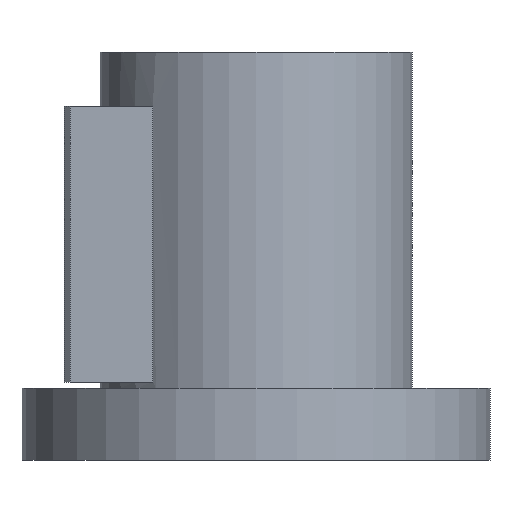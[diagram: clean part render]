
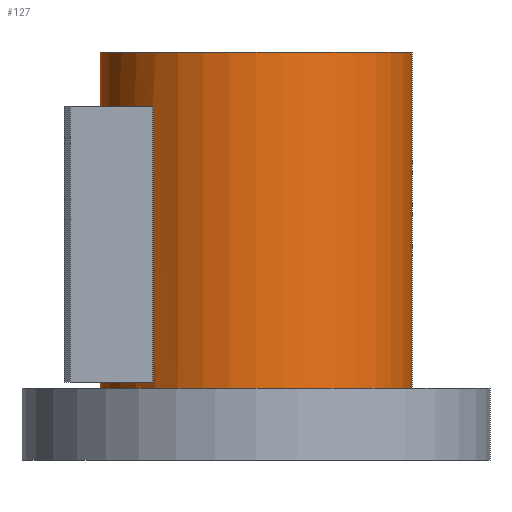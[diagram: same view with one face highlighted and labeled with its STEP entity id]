
A CAD part, front view. The second image highlights one B-rep face of the part: STEP entity #127.
In plain terms, the highlighted cylindrical face has radius 26 mm (diameter 52 mm), a full revolution.
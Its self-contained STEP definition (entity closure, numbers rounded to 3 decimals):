
#127=ADVANCED_FACE('',(#200,#201,#202),#155,.T.);
#155=CYLINDRICAL_SURFACE('',#508,26.);
#168=LINE('',#698,#184);
#169=LINE('',#702,#185);
#184=VECTOR('',#568,1.);
#185=VECTOR('',#571,1.);
#200=FACE_BOUND('',#245,.T.);
#201=FACE_BOUND('',#246,.T.);
#202=FACE_BOUND('',#247,.T.);
#245=EDGE_LOOP('',(#305));
#246=EDGE_LOOP('',(#306));
#247=EDGE_LOOP('',(#307,#308,#309,#310));
#305=ORIENTED_EDGE('',*,*,#431,.F.);
#306=ORIENTED_EDGE('',*,*,#432,.T.);
#307=ORIENTED_EDGE('',*,*,#433,.F.);
#308=ORIENTED_EDGE('',*,*,#434,.F.);
#309=ORIENTED_EDGE('',*,*,#435,.T.);
#310=ORIENTED_EDGE('',*,*,#436,.F.);
#393=VERTEX_POINT('',#692);
#394=VERTEX_POINT('',#694);
#395=VERTEX_POINT('',#696);
#396=VERTEX_POINT('',#697);
#397=VERTEX_POINT('',#699);
#398=VERTEX_POINT('',#701);
#431=EDGE_CURVE('',#393,#393,#475,.T.);
#432=EDGE_CURVE('',#394,#394,#476,.T.);
#433=EDGE_CURVE('',#395,#396,#477,.T.);
#434=EDGE_CURVE('',#397,#395,#168,.T.);
#435=EDGE_CURVE('',#397,#398,#478,.T.);
#436=EDGE_CURVE('',#396,#398,#169,.T.);
#475=CIRCLE('',#504,26.);
#476=CIRCLE('',#505,26.);
#477=CIRCLE('',#506,26.);
#478=CIRCLE('',#507,26.);
#504=AXIS2_PLACEMENT_3D('',#691,#562,#563);
#505=AXIS2_PLACEMENT_3D('',#693,#564,#565);
#506=AXIS2_PLACEMENT_3D('',#695,#566,#567);
#507=AXIS2_PLACEMENT_3D('',#700,#569,#570);
#508=AXIS2_PLACEMENT_3D('',#703,#572,#573);
#562=DIRECTION('',(0.,0.,1.));
#563=DIRECTION('',(1.,0.,0.));
#564=DIRECTION('',(0.,0.,1.));
#565=DIRECTION('',(1.,0.,0.));
#566=DIRECTION('',(0.,0.,-1.));
#567=DIRECTION('',(-1.,0.,0.));
#568=DIRECTION('',(0.,0.,1.));
#569=DIRECTION('',(0.,0.,-1.));
#570=DIRECTION('',(-1.,0.,0.));
#571=DIRECTION('',(0.,0.,-1.));
#572=DIRECTION('',(0.,0.,-1.));
#573=DIRECTION('',(-1.,0.,0.));
#691=CARTESIAN_POINT('',(0.,0.,68.));
#692=CARTESIAN_POINT('',(26.,0.,68.));
#693=CARTESIAN_POINT('',(0.,0.,12.));
#694=CARTESIAN_POINT('',(26.,0.,12.));
#695=CARTESIAN_POINT('',(0.,0.,59.));
#696=CARTESIAN_POINT('',(-17.197,-19.5,59.));
#697=CARTESIAN_POINT('',(-17.197,19.5,59.));
#698=CARTESIAN_POINT('',(-17.197,-19.5,68.));
#699=CARTESIAN_POINT('',(-17.197,-19.5,13.));
#700=CARTESIAN_POINT('',(0.,0.,13.));
#701=CARTESIAN_POINT('',(-17.197,19.5,13.));
#702=CARTESIAN_POINT('',(-17.197,19.5,68.));
#703=CARTESIAN_POINT('',(0.,0.,68.));
